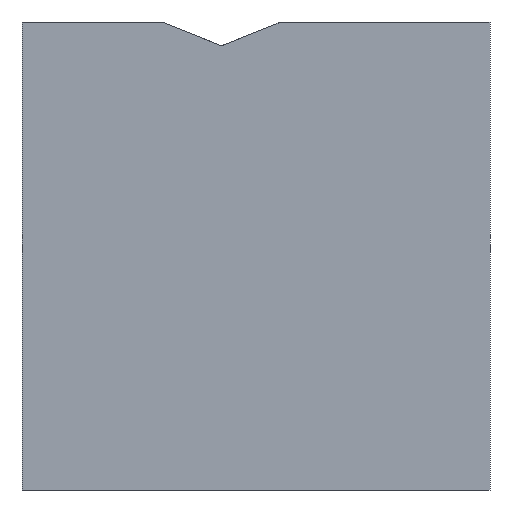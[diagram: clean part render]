
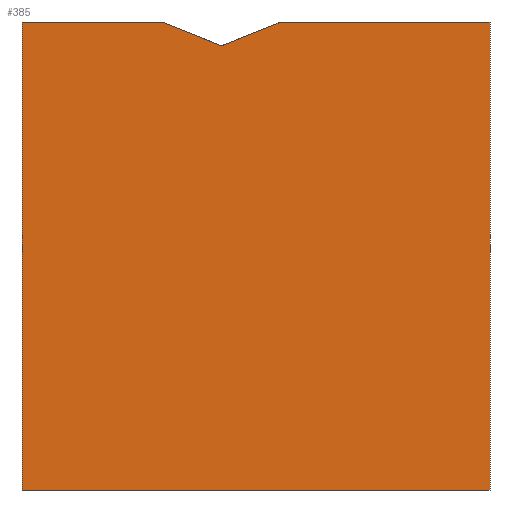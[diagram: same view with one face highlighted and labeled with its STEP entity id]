
A CAD part, left-side view. The second image highlights one B-rep face of the part: STEP entity #385.
In plain terms, the highlighted planar face has unit normal (-1, 0, 0).
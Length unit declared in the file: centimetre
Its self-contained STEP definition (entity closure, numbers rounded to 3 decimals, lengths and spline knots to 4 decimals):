
#10 = EDGE_CURVE ( 'NONE', #340, #336, #440, .T. ) ;
#16 = VECTOR ( 'NONE', #445, 100. ) ;
#19 = LINE ( 'NONE', #72, #526 ) ;
#25 = PLANE ( 'NONE',  #282 ) ;
#34 = DIRECTION ( 'NONE',  ( 0., -0.928, 0.373 ) ) ;
#41 = CARTESIAN_POINT ( 'NONE',  ( 0., 573.5037, 948.9535 ) ) ;
#48 = EDGE_CURVE ( 'NONE', #130, #340, #194, .T. ) ;
#49 = ORIENTED_EDGE ( 'NONE', *, *, #183, .F. ) ;
#51 = VECTOR ( 'NONE', #493, 100. ) ;
#70 = DIRECTION ( 'NONE',  ( 0., -1., 0. ) ) ;
#72 = CARTESIAN_POINT ( 'NONE',  ( 0., 1000., 0. ) ) ;
#84 = CARTESIAN_POINT ( 'NONE',  ( 0., 573.5037, 948.9535 ) ) ;
#87 = DIRECTION ( 'NONE',  ( 0., -1., 0. ) ) ;
#112 = CARTESIAN_POINT ( 'NONE',  ( 0., 1000., 0. ) ) ;
#124 = LINE ( 'NONE', #412, #51 ) ;
#130 = VERTEX_POINT ( 'NONE', #136 ) ;
#136 = CARTESIAN_POINT ( 'NONE',  ( 0., 446.5192, 1000. ) ) ;
#149 = CARTESIAN_POINT ( 'NONE',  ( 0., 700.4883, 1000. ) ) ;
#152 = CARTESIAN_POINT ( 'NONE',  ( 0., 1000., 1000. ) ) ;
#153 = EDGE_CURVE ( 'NONE', #489, #480, #124, .T. ) ;
#159 = CARTESIAN_POINT ( 'NONE',  ( 0., 1000., 1000. ) ) ;
#161 = ORIENTED_EDGE ( 'NONE', *, *, #226, .T. ) ;
#183 = EDGE_CURVE ( 'NONE', #368, #485, #252, .T. ) ;
#193 = LINE ( 'NONE', #413, #306 ) ;
#194 = LINE ( 'NONE', #152, #214 ) ;
#196 = EDGE_CURVE ( 'NONE', #489, #368, #298, .T. ) ;
#207 = DIRECTION ( 'NONE',  ( 0., -0.928, -0.373 ) ) ;
#214 = VECTOR ( 'NONE', #70, 100. ) ;
#226 = EDGE_CURVE ( 'NONE', #480, #336, #19, .T. ) ;
#234 = VECTOR ( 'NONE', #87, 100. ) ;
#244 = CARTESIAN_POINT ( 'NONE',  ( 0., 1000., 1000. ) ) ;
#252 = LINE ( 'NONE', #41, #393 ) ;
#255 = EDGE_LOOP ( 'NONE', ( #367, #446, #49, #292, #496, #161, #534 ) ) ;
#272 = DIRECTION ( 'NONE',  ( 0., -1., 0. ) ) ;
#282 = AXIS2_PLACEMENT_3D ( 'NONE', #244, #409, #533 ) ;
#292 = ORIENTED_EDGE ( 'NONE', *, *, #196, .F. ) ;
#298 = LINE ( 'NONE', #455, #234 ) ;
#306 = VECTOR ( 'NONE', #34, 100. ) ;
#336 = VERTEX_POINT ( 'NONE', #434 ) ;
#340 = VERTEX_POINT ( 'NONE', #364 ) ;
#364 = CARTESIAN_POINT ( 'NONE',  ( 0., 0., 1000. ) ) ;
#367 = ORIENTED_EDGE ( 'NONE', *, *, #48, .F. ) ;
#368 = VERTEX_POINT ( 'NONE', #149 ) ;
#385 = ADVANCED_FACE ( 'NONE', ( #436 ), #25, .F. ) ;
#393 = VECTOR ( 'NONE', #207, 100. ) ;
#409 = DIRECTION ( 'NONE',  ( 1., 0., 0. ) ) ;
#412 = CARTESIAN_POINT ( 'NONE',  ( 0., 1000., 1000. ) ) ;
#413 = CARTESIAN_POINT ( 'NONE',  ( 0., 446.5192, 1000. ) ) ;
#434 = CARTESIAN_POINT ( 'NONE',  ( 0., 0., 0. ) ) ;
#436 = FACE_OUTER_BOUND ( 'NONE', #255, .T. ) ;
#440 = LINE ( 'NONE', #524, #16 ) ;
#445 = DIRECTION ( 'NONE',  ( 0., 0., -1. ) ) ;
#446 = ORIENTED_EDGE ( 'NONE', *, *, #512, .F. ) ;
#455 = CARTESIAN_POINT ( 'NONE',  ( 0., 1000., 1000. ) ) ;
#480 = VERTEX_POINT ( 'NONE', #112 ) ;
#485 = VERTEX_POINT ( 'NONE', #84 ) ;
#489 = VERTEX_POINT ( 'NONE', #159 ) ;
#493 = DIRECTION ( 'NONE',  ( 0., 0., -1. ) ) ;
#496 = ORIENTED_EDGE ( 'NONE', *, *, #153, .T. ) ;
#512 = EDGE_CURVE ( 'NONE', #485, #130, #193, .T. ) ;
#524 = CARTESIAN_POINT ( 'NONE',  ( 0., 0., 1000. ) ) ;
#526 = VECTOR ( 'NONE', #272, 100. ) ;
#533 = DIRECTION ( 'NONE',  ( 0., 0., -1. ) ) ;
#534 = ORIENTED_EDGE ( 'NONE', *, *, #10, .F. ) ;
